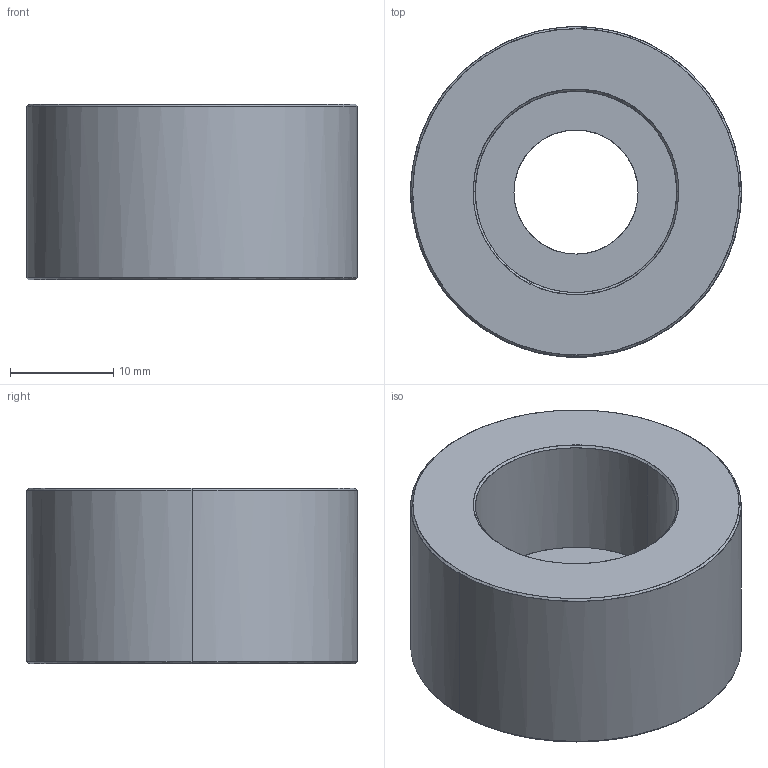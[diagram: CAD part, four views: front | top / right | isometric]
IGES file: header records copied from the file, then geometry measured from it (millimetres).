
Global section: file name: E:\UnigraphicsGraphicData\MISUMI_PRESS-PARTS\IGES\3d_j20_00101_r00.igs; native system: NX V5.0; preprocessor: UGS NX IGES V5.0; author: MISUMI; date: 20110105.161101; units: millimetre
Bounding box: 32 x 31.97 x 17 mm (x, y, z)
Surface area: 3979.3 mm2 (no closed solid volume)
Topology: 0 solids, 0 shells, 17 faces, 120 edges, 120 vertices
Faces by surface type: bspline 17
